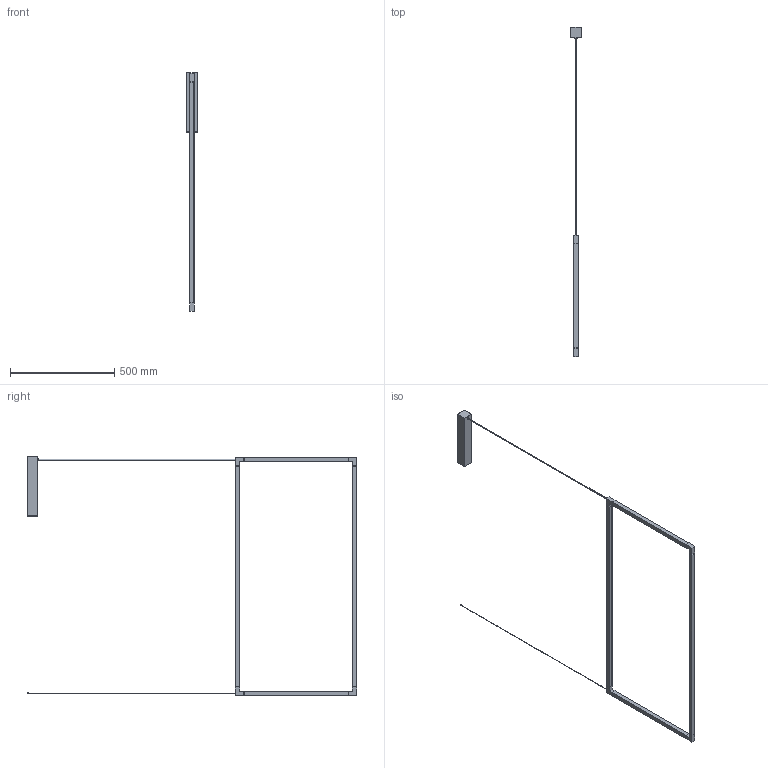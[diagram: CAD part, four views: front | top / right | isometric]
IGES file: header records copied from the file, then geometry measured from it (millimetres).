
Start section: SolidWorks IGES file using analytic representation for surfaces
Global section: file name: C:\Users\tungari.NEMOLIGHTING\Desktop\3D\PENDANT\3D_SPIGOLO_VERTICAL_PENDANT\DEF2_SPIGOLO_V\3D_SPIGOLO_V_PENDANT.IGS; native system: SolidWorks 2016; preprocessor: SolidWorks 2016; author: tungari; date: 180409.182428; units: millimetre
Bounding box: 50 x 1582 x 1146.7 mm (x, y, z)
Surface area: 455153.3 mm2 (no closed solid volume)
Topology: 0 solids, 0 shells, 142 faces, 912 edges, 904 vertices
Faces by surface type: bspline 114, revolution 28
